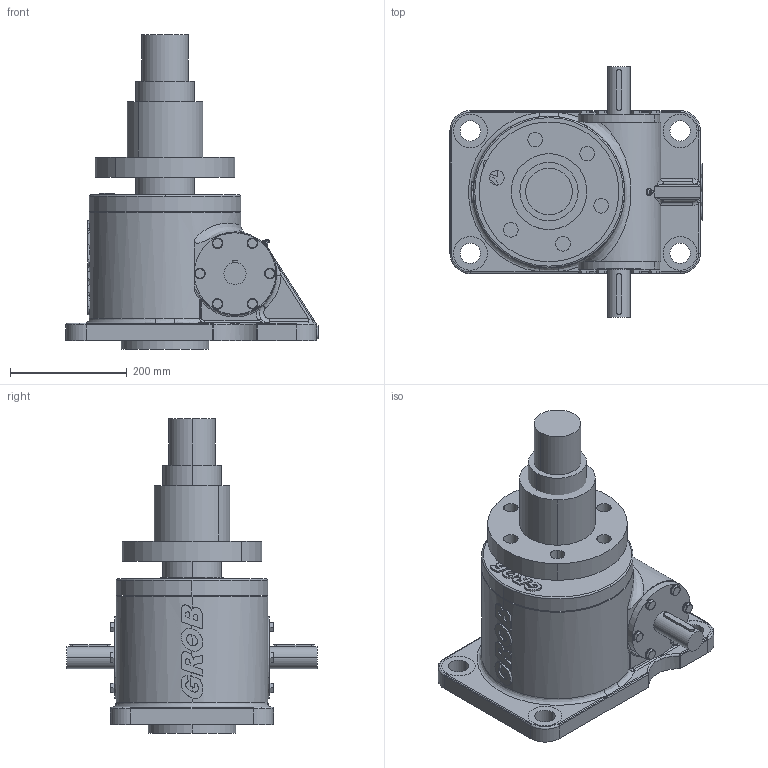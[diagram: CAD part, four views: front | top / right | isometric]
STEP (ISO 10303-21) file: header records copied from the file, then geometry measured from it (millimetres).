
FILE_DESCRIPTION(('STEP AP203'),'1');
FILE_NAME('mc35-lmn-f-1f-z-0005-0195-tr100x16-ab-o_0.stp','2023-12-20T14:56:38',('TraceParts'),('TraceParts S.A.'),'Spatial InterOp 3D',' ',' ');
FILE_SCHEMA(('CONFIG_CONTROL_DESIGN'));
Length unit declared in the file: millimetre
Products named in the file (1): 1
Bounding box: 432.6 x 430 x 540 mm (x, y, z)
Volume: 23320326.7 mm3; surface area: 837157.8 mm2
Topology: 5 solids, 5 shells, 2664 faces, 7250 edges, 4636 vertices
Faces by surface type: cylinder 1466, plane 816, bspline 248, cone 114, torus 14, sphere 6
Entity records: 87989 total; most frequent: CARTESIAN_POINT 18808, DIRECTION 15600, ORIENTED_EDGE 14468, EDGE_CURVE 7234, AXIS2_PLACEMENT_3D 6266, VERTEX_POINT 4636, CIRCLE 3824, LINE 3068
